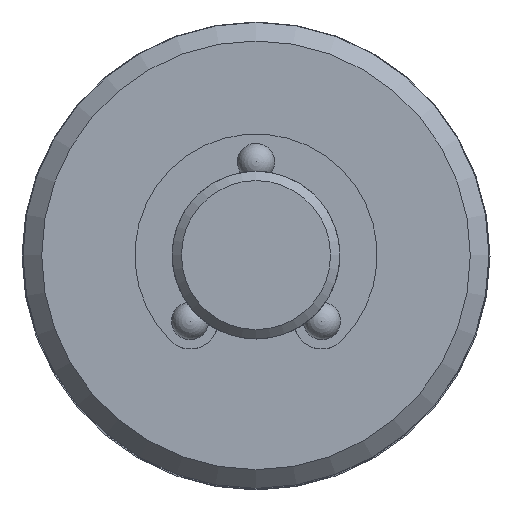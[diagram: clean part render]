
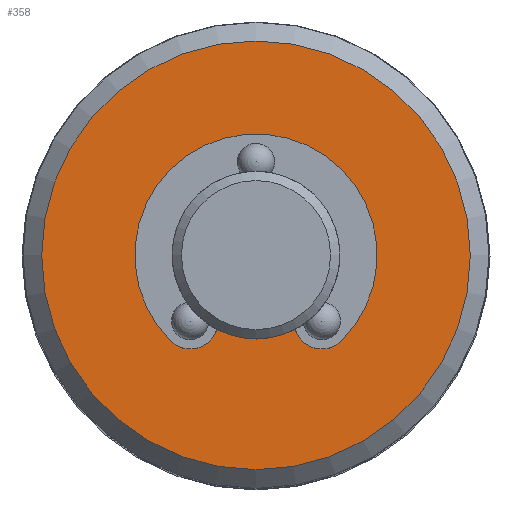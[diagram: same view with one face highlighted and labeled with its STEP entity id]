
A CAD part, top view. The second image highlights one B-rep face of the part: STEP entity #358.
In plain terms, the highlighted planar face has unit normal (0, 0, 1).
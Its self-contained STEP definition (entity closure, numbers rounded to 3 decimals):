
#358=ADVANCED_FACE('',(#446),#396,.T.);
#396=PLANE('',#1166);
#446=FACE_OUTER_BOUND('',#513,.T.);
#513=EDGE_LOOP('',(#761));
#761=ORIENTED_EDGE('',*,*,#1003,.F.);
#873=VERTEX_POINT('',#3749);
#1003=EDGE_CURVE('',#873,#873,#1061,.T.);
#1061=CIRCLE('',#1164,11.5);
#1164=AXIS2_PLACEMENT_3D('',#3748,#1415,#1416);
#1166=AXIS2_PLACEMENT_3D('',#3751,#1419,#1420);
#1415=DIRECTION('',(0.,0.,-1.));
#1416=DIRECTION('',(0.,1.,0.));
#1419=DIRECTION('',(0.,0.,1.));
#1420=DIRECTION('',(0.,-1.,0.));
#3748=CARTESIAN_POINT('',(0.,0.,35.));
#3749=CARTESIAN_POINT('',(0.,11.5,35.));
#3751=CARTESIAN_POINT('',(11.5,0.,35.));
